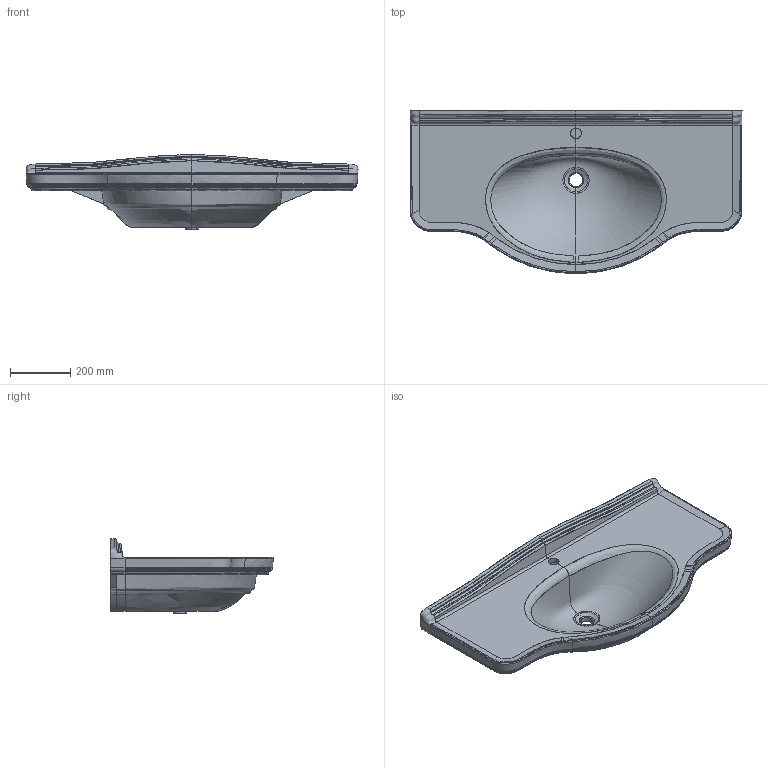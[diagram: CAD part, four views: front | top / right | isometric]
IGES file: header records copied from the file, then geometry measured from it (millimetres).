
Start section: START RECORD GO HERE.
Global section: file name: 8435M_Lavabo Ethos 110.igs; native system: DASSAULT SYSTEMES CATIA V5 R19 - www.3ds.com; preprocessor: CATIA Version 5 Release 19 SP 5 ; author: gioge; organization: LAPTOP-G94B6G74; date: 20200630.150433; units: millimetre
Bounding box: 1100.28 x 539.25 x 247.7 mm (x, y, z)
Surface area: 1485977.2 mm2 (no closed solid volume)
Topology: 0 solids, 0 shells, 312 faces, 1533 edges, 1533 vertices
Faces by surface type: bspline 284, plane 14, extrusion 12, revolution 2
